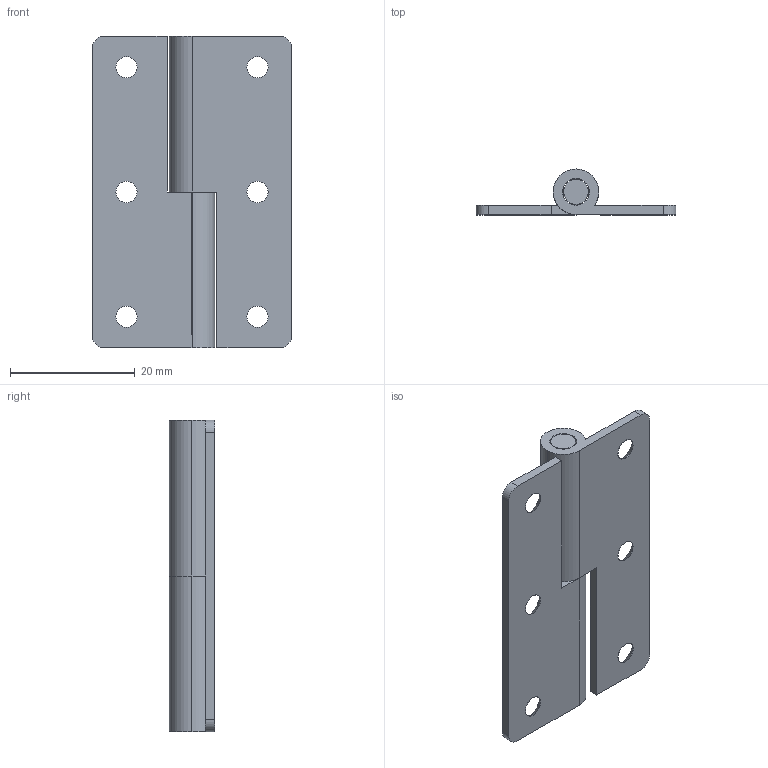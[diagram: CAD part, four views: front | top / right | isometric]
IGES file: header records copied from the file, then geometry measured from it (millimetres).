
Global section: file name: No Iges File Name specified; native system: AutoDesk Inventor R11.0; preprocessor: AutoDesk Inventor Iges Exporter R11.0; author: No Author specified; organization: No Organization specified; date: 20130722.150932; units: millimetre
Bounding box: 32 x 7.3 x 50 mm (x, y, z)
Surface area: 76129 mm2 (no closed solid volume)
Topology: 0 solids, 0 shells, 57 faces, 283 edges, 280 vertices
Faces by surface type: revolution 40, plane 15, bspline 2
